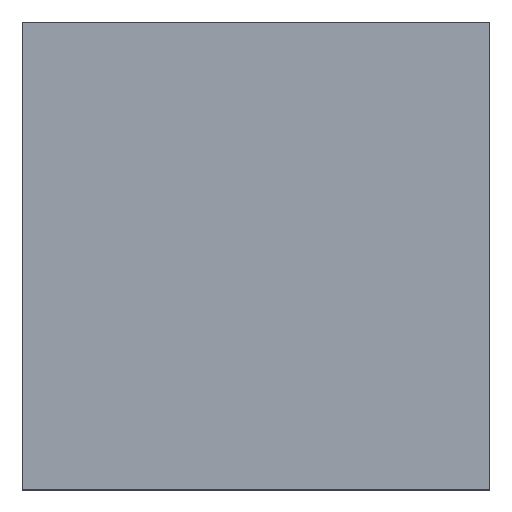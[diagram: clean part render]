
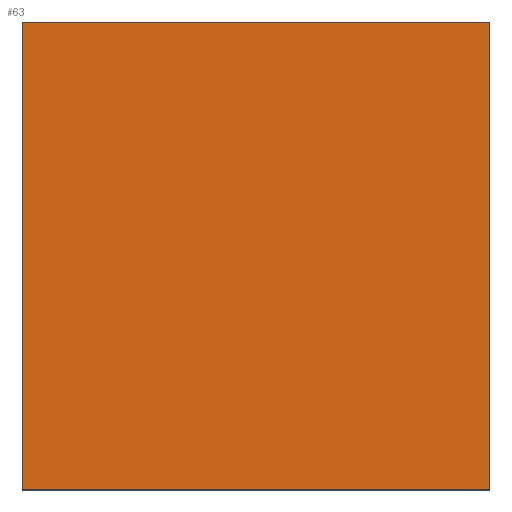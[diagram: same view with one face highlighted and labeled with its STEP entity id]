
A CAD part, top view. The second image highlights one B-rep face of the part: STEP entity #63.
In plain terms, the highlighted planar face has unit normal (0, 0, 1).
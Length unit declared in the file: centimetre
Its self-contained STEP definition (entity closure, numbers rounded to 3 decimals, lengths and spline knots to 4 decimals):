
#14 = PLANE ( 'NONE',  #26 ) ;
#26 = AXIS2_PLACEMENT_3D ( 'NONE', #167, #272, #46 ) ;
#31 = VERTEX_POINT ( 'NONE', #134 ) ;
#46 = DIRECTION ( 'NONE',  ( 1., 0., 0. ) ) ;
#56 = EDGE_LOOP ( 'NONE', ( #223, #187, #280, #228 ) ) ;
#63 = ADVANCED_FACE ( 'NONE', ( #171 ), #14, .T. ) ;
#67 = EDGE_CURVE ( 'NONE', #31, #264, #278, .T. ) ;
#76 = EDGE_CURVE ( 'NONE', #170, #31, #334, .T. ) ;
#82 = LINE ( 'NONE', #90, #265 ) ;
#90 = CARTESIAN_POINT ( 'NONE',  ( 0., 1000., 1000. ) ) ;
#108 = VECTOR ( 'NONE', #137, 100. ) ;
#134 = CARTESIAN_POINT ( 'NONE',  ( 1000., 1000., 1000. ) ) ;
#137 = DIRECTION ( 'NONE',  ( -1., 0., 0. ) ) ;
#163 = VERTEX_POINT ( 'NONE', #214 ) ;
#167 = CARTESIAN_POINT ( 'NONE',  ( 0., 0., 1000. ) ) ;
#170 = VERTEX_POINT ( 'NONE', #337 ) ;
#171 = FACE_OUTER_BOUND ( 'NONE', #56, .T. ) ;
#187 = ORIENTED_EDGE ( 'NONE', *, *, #196, .T. ) ;
#196 = EDGE_CURVE ( 'NONE', #163, #170, #241, .T. ) ;
#212 = CARTESIAN_POINT ( 'NONE',  ( 0., 1000., 1000. ) ) ;
#214 = CARTESIAN_POINT ( 'NONE',  ( 0., 0., 1000. ) ) ;
#223 = ORIENTED_EDGE ( 'NONE', *, *, #371, .T. ) ;
#225 = DIRECTION ( 'NONE',  ( 0., -1., 0. ) ) ;
#228 = ORIENTED_EDGE ( 'NONE', *, *, #67, .T. ) ;
#241 = LINE ( 'NONE', #282, #277 ) ;
#264 = VERTEX_POINT ( 'NONE', #212 ) ;
#265 = VECTOR ( 'NONE', #225, 100. ) ;
#272 = DIRECTION ( 'NONE',  ( 0., 0., 1. ) ) ;
#274 = CARTESIAN_POINT ( 'NONE',  ( 1000., 1000., 1000. ) ) ;
#277 = VECTOR ( 'NONE', #407, 100. ) ;
#278 = LINE ( 'NONE', #402, #108 ) ;
#280 = ORIENTED_EDGE ( 'NONE', *, *, #76, .T. ) ;
#282 = CARTESIAN_POINT ( 'NONE',  ( 0., 0., 1000. ) ) ;
#330 = DIRECTION ( 'NONE',  ( 0., 1., 0. ) ) ;
#334 = LINE ( 'NONE', #274, #400 ) ;
#337 = CARTESIAN_POINT ( 'NONE',  ( 1000., 0., 1000. ) ) ;
#371 = EDGE_CURVE ( 'NONE', #264, #163, #82, .T. ) ;
#400 = VECTOR ( 'NONE', #330, 100. ) ;
#402 = CARTESIAN_POINT ( 'NONE',  ( 0., 1000., 1000. ) ) ;
#407 = DIRECTION ( 'NONE',  ( 1., 0., 0. ) ) ;
